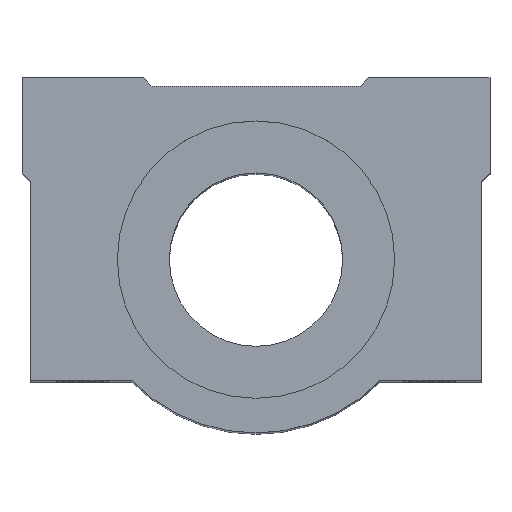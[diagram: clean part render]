
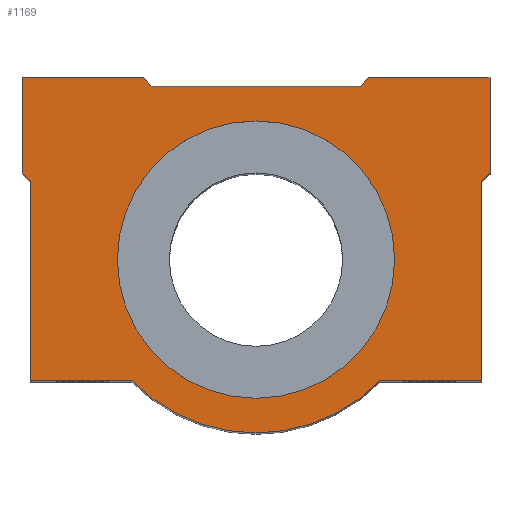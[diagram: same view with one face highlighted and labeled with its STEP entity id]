
A CAD part, top view. The second image highlights one B-rep face of the part: STEP entity #1169.
In plain terms, the highlighted planar face has unit normal (0, 0, 1).
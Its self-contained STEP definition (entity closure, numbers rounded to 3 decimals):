
#91=CARTESIAN_POINT('',(-16.709,4.198,94.));
#92=VERTEX_POINT('',#91);
#101=CARTESIAN_POINT('',(15.291,4.198,94.));
#102=VERTEX_POINT('',#101);
#103=CARTESIAN_POINT('',(-0.709,4.198,94.));
#104=DIRECTION('',(0.0,0.0,-1.0));
#105=DIRECTION('',(-1.0,0.0,0.0));
#106=AXIS2_PLACEMENT_3D('',#103,#104,#105);
#107=CIRCLE('',#106,16.0);
#108=EDGE_CURVE('',#102,#92,#107,.T.);
#640=CARTESIAN_POINT('',(-0.709,4.198,94.));
#641=DIRECTION('',(0.0,0.0,-1.0));
#642=DIRECTION('',(-1.0,0.0,0.0));
#643=AXIS2_PLACEMENT_3D('',#640,#641,#642);
#644=CIRCLE('',#643,16.0);
#645=EDGE_CURVE('',#92,#102,#644,.T.);
#780=CARTESIAN_POINT('',(26.291,14.198,94.));
#781=VERTEX_POINT('',#780);
#782=CARTESIAN_POINT('',(25.291,13.198,94.));
#783=VERTEX_POINT('',#782);
#784=CARTESIAN_POINT('',(26.291,14.198,94.));
#785=DIRECTION('',(-0.707,-0.707,0.0));
#786=VECTOR('',#785,1.414);
#787=LINE('',#784,#786);
#788=EDGE_CURVE('',#781,#783,#787,.T.);
#811=CARTESIAN_POINT('',(25.291,-9.802,94.));
#812=VERTEX_POINT('',#811);
#813=CARTESIAN_POINT('',(25.291,13.198,94.));
#814=DIRECTION('',(0.0,-1.0,0.0));
#815=VECTOR('',#814,23.0);
#816=LINE('',#813,#815);
#817=EDGE_CURVE('',#783,#812,#816,.T.);
#835=CARTESIAN_POINT('',(13.574,-9.802,94.));
#836=VERTEX_POINT('',#835);
#837=CARTESIAN_POINT('',(25.291,-9.802,94.));
#838=DIRECTION('',(-1.0,0.0,0.0));
#839=VECTOR('',#838,11.717);
#840=LINE('',#837,#839);
#841=EDGE_CURVE('',#812,#836,#840,.T.);
#867=CARTESIAN_POINT('',(-14.992,-9.802,94.));
#868=VERTEX_POINT('',#867);
#869=CARTESIAN_POINT('',(-0.709,4.198,94.));
#870=DIRECTION('',(0.0,0.0,-1.0));
#871=DIRECTION('',(0.714,0.7,0.0));
#872=AXIS2_PLACEMENT_3D('',#869,#870,#871);
#873=CIRCLE('',#872,20.0);
#874=EDGE_CURVE('',#836,#868,#873,.T.);
#892=CARTESIAN_POINT('',(-26.709,-9.802,94.));
#893=VERTEX_POINT('',#892);
#894=CARTESIAN_POINT('',(-14.992,-9.802,94.));
#895=DIRECTION('',(-1.0,0.0,0.0));
#896=VECTOR('',#895,11.717);
#897=LINE('',#894,#896);
#898=EDGE_CURVE('',#868,#893,#897,.T.);
#924=CARTESIAN_POINT('',(-26.709,13.198,94.));
#925=VERTEX_POINT('',#924);
#926=CARTESIAN_POINT('',(-26.709,-9.802,94.));
#927=DIRECTION('',(0.0,1.0,0.0));
#928=VECTOR('',#927,23.);
#929=LINE('',#926,#928);
#930=EDGE_CURVE('',#893,#925,#929,.T.);
#948=CARTESIAN_POINT('',(-27.709,14.198,94.));
#949=VERTEX_POINT('',#948);
#950=CARTESIAN_POINT('',(-26.709,13.198,94.));
#951=DIRECTION('',(-0.707,0.707,0.0));
#952=VECTOR('',#951,1.414);
#953=LINE('',#950,#952);
#954=EDGE_CURVE('',#925,#949,#953,.T.);
#972=CARTESIAN_POINT('',(-27.709,25.198,94.));
#973=VERTEX_POINT('',#972);
#974=CARTESIAN_POINT('',(-27.709,14.198,94.));
#975=DIRECTION('',(0.0,1.0,0.0));
#976=VECTOR('',#975,11.);
#977=LINE('',#974,#976);
#978=EDGE_CURVE('',#949,#973,#977,.T.);
#996=CARTESIAN_POINT('',(-13.709,25.198,94.));
#997=VERTEX_POINT('',#996);
#998=CARTESIAN_POINT('',(-27.709,25.198,94.));
#999=DIRECTION('',(1.0,0.0,0.0));
#1000=VECTOR('',#999,14.);
#1001=LINE('',#998,#1000);
#1002=EDGE_CURVE('',#973,#997,#1001,.T.);
#1028=CARTESIAN_POINT('',(-12.709,24.198,94.));
#1029=VERTEX_POINT('',#1028);
#1030=CARTESIAN_POINT('',(-13.709,25.198,94.));
#1031=DIRECTION('',(0.707,-0.707,0.0));
#1032=VECTOR('',#1031,1.414);
#1033=LINE('',#1030,#1032);
#1034=EDGE_CURVE('',#997,#1029,#1033,.T.);
#1052=CARTESIAN_POINT('',(11.291,24.198,94.));
#1053=VERTEX_POINT('',#1052);
#1054=CARTESIAN_POINT('',(-12.709,24.198,94.));
#1055=DIRECTION('',(1.0,0.0,0.0));
#1056=VECTOR('',#1055,24.);
#1057=LINE('',#1054,#1056);
#1058=EDGE_CURVE('',#1029,#1053,#1057,.T.);
#1076=CARTESIAN_POINT('',(12.291,25.198,94.));
#1077=VERTEX_POINT('',#1076);
#1078=CARTESIAN_POINT('',(11.291,24.198,94.));
#1079=DIRECTION('',(0.707,0.707,0.0));
#1080=VECTOR('',#1079,1.414);
#1081=LINE('',#1078,#1080);
#1082=EDGE_CURVE('',#1053,#1077,#1081,.T.);
#1100=CARTESIAN_POINT('',(26.291,25.198,94.));
#1101=VERTEX_POINT('',#1100);
#1102=CARTESIAN_POINT('',(12.291,25.198,94.));
#1103=DIRECTION('',(1.0,0.0,0.0));
#1104=VECTOR('',#1103,14.);
#1105=LINE('',#1102,#1104);
#1106=EDGE_CURVE('',#1077,#1101,#1105,.T.);
#1132=CARTESIAN_POINT('',(26.291,25.198,94.));
#1133=DIRECTION('',(0.0,-1.0,0.0));
#1134=VECTOR('',#1133,11.);
#1135=LINE('',#1132,#1134);
#1136=EDGE_CURVE('',#1101,#781,#1135,.T.);
#1144=CARTESIAN_POINT('',(-0.709,6.918,94.));
#1145=DIRECTION('',(0.0,0.0,1.0));
#1146=DIRECTION('',(1.0,0.0,0.0));
#1147=AXIS2_PLACEMENT_3D('',#1144,#1145,#1146);
#1148=PLANE('',#1147);
#1149=ORIENTED_EDGE('',*,*,#788,.F.);
#1150=ORIENTED_EDGE('',*,*,#1136,.F.);
#1151=ORIENTED_EDGE('',*,*,#1106,.F.);
#1152=ORIENTED_EDGE('',*,*,#1082,.F.);
#1153=ORIENTED_EDGE('',*,*,#1058,.F.);
#1154=ORIENTED_EDGE('',*,*,#1034,.F.);
#1155=ORIENTED_EDGE('',*,*,#1002,.F.);
#1156=ORIENTED_EDGE('',*,*,#978,.F.);
#1157=ORIENTED_EDGE('',*,*,#954,.F.);
#1158=ORIENTED_EDGE('',*,*,#930,.F.);
#1159=ORIENTED_EDGE('',*,*,#898,.F.);
#1160=ORIENTED_EDGE('',*,*,#874,.F.);
#1161=ORIENTED_EDGE('',*,*,#841,.F.);
#1162=ORIENTED_EDGE('',*,*,#817,.F.);
#1163=EDGE_LOOP('',(#1149,#1150,#1151,#1152,#1153,#1154,#1155,#1156,#1157,#1158,#1159,#1160,#1161,#1162));
#1164=FACE_OUTER_BOUND('',#1163,.T.);
#1165=ORIENTED_EDGE('',*,*,#108,.T.);
#1166=ORIENTED_EDGE('',*,*,#645,.T.);
#1167=EDGE_LOOP('',(#1165,#1166));
#1168=FACE_BOUND('',#1167,.T.);
#1169=ADVANCED_FACE('',(#1164,#1168),#1148,.T.);
